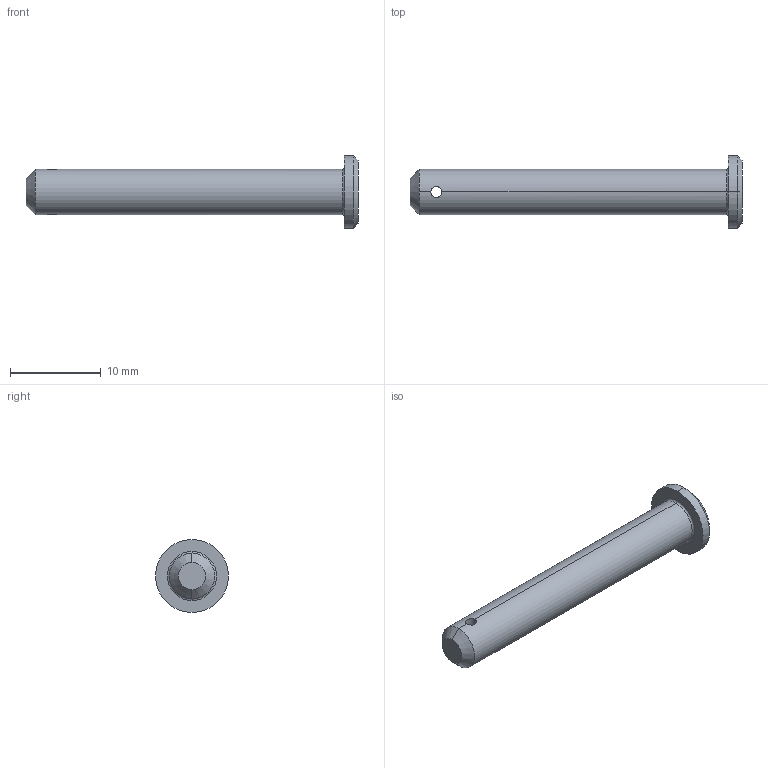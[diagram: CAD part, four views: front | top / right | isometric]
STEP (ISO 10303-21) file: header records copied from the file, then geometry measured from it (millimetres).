
FILE_DESCRIPTION (( 'STEP AP203' ), '1' );
FILE_NAME ('Wiberger-sms2360_5x35.step', '2012-10-09T08:58:05', ( 'Magnus' ), ( 'Wiberger' ), 'SwSTEP 2.0', 'SolidWorks 2011', '' );
FILE_SCHEMA (( 'CONFIG_CONTROL_DESIGN' ));
Length unit declared in the file: millimetre
Products named in the file (1): Wiberger-sms2360_5x35
Bounding box: 36.5 x 8 x 8 mm (x, y, z)
Volume: 747.3 mm3; surface area: 684.8 mm2
Topology: 1 solids, 1 shells, 15 faces, 32 edges, 18 vertices
Faces by surface type: cylinder 6, cone 4, plane 3, torus 2
Entity records: 511 total; most frequent: CARTESIAN_POINT 102, DIRECTION 76, ORIENTED_EDGE 64, AXIS2_PLACEMENT_3D 32, EDGE_CURVE 32, VERTEX_POINT 18, EDGE_LOOP 16, CIRCLE 16
